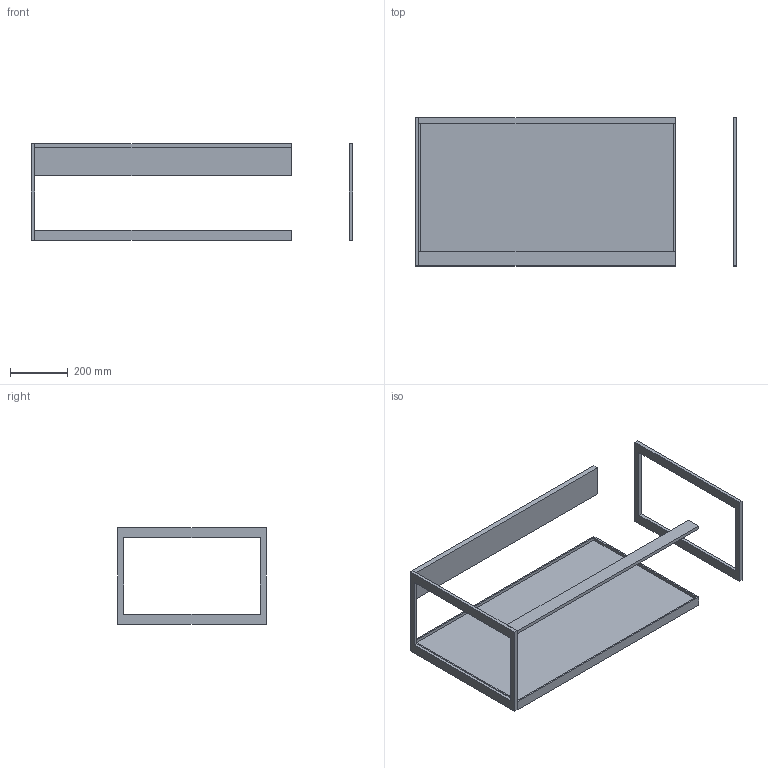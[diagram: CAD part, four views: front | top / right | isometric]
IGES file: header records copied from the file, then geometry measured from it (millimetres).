
Start section: Data from Parasolid IGES Translator 19.0.9, Copyright(c) 2006 Siemens PL M Software. All Rights Reserved.
Global section: file name: noorth-FJ-H 33,5 D 51,2 W 90_6692.igs; native system: By Siemens PLM Incorporated; preprocessor: XPlus GENERIC/IGES 19.0.9; author: Noname; organization: Noname; date: 20200507.120949; units: metre
Bounding box: 1112 x 512 x 335 mm (x, y, z)
Volume: 14474180.2 mm3; surface area: 1644709.8 mm2
Topology: 5 solids, 5 shells, 43 faces, 96 edges, 64 vertices
Faces by surface type: plane 43
